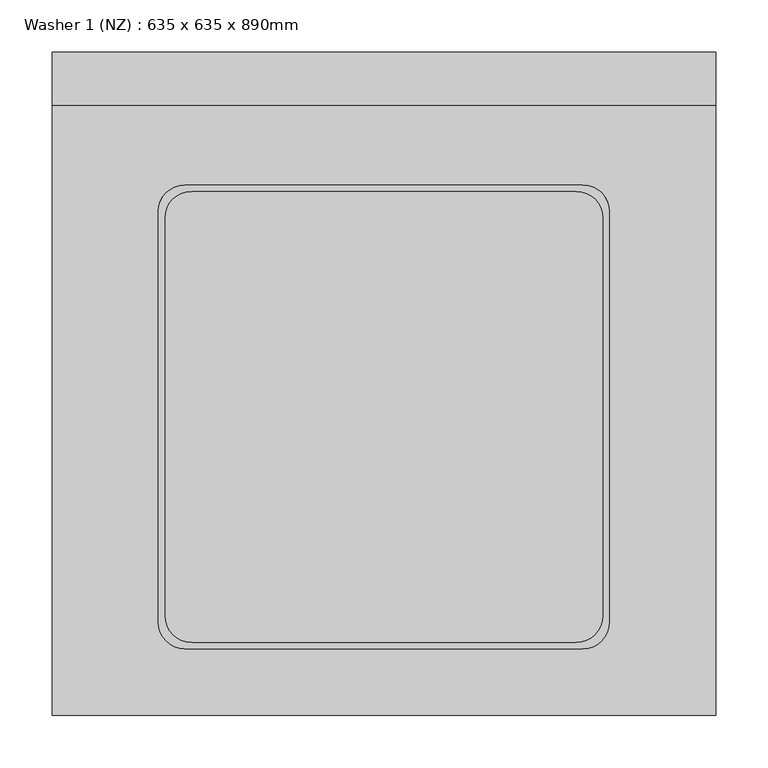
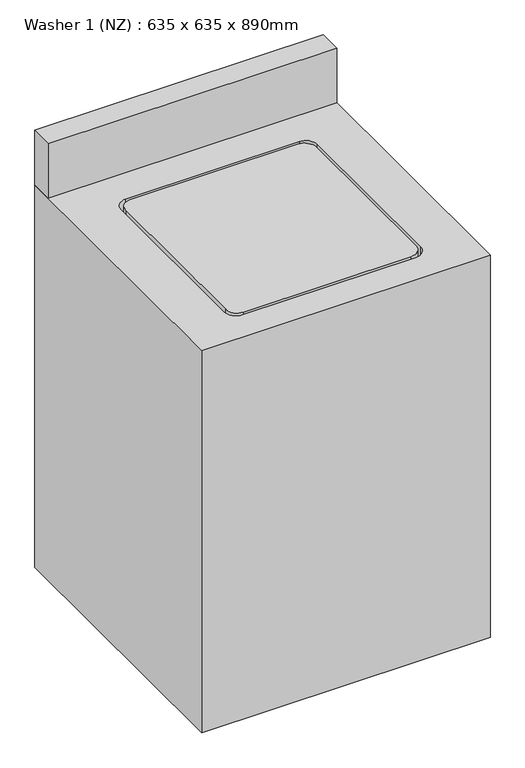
"""IFC4 building model written with IfcOpenShell, lengths in millimetres: proxy geometry, Washer 1 (NZ) : 635 x 635 x 890mm."""

from ifc_helpers import new_model, si_unit, point, frame, frame_2d, origin, place, context, project, spatial, polyline, circle_curve, trimmed, segment, composite_curve, outline, extrude, source, transform, mapped, element, save
from ifc_brep_helpers import plane_surface, revolved_surface, advanced_brep


def washer_1_nz_635_x_635_x_890mm_ea8aa6a1(model_context):
    return source(origin(), model_context, "Body", "SolidModel", [
        extrude(outline(composite_curve([segment(trimmed(circle_curve(frame_2d((210.8674685, 437.8995648)), 25.4), [point((185.4674685, 437.8995648))], [point((210.8674685, 463.2995648))], False, "CARTESIAN"), True, "CONTINUOUS"), segment(polyline([(210.8674685, 463.2995648), (579.1674685, 463.2995648)]), True, "CONTINUOUS"), segment(trimmed(circle_curve(frame_2d((579.1674685, 437.8995648)), 25.4), [point((579.1674685, 463.2995648))], [point((604.5674685, 437.8995648))], False, "CARTESIAN"), True, "CONTINUOUS"), segment(polyline([(604.5674685, 437.8995648), (604.5674685, 56.8995648)]), True, "CONTINUOUS"), segment(trimmed(circle_curve(frame_2d((579.1674685, 56.8995648)), 25.4), [point((604.5674685, 56.8995648))], [point((579.1674685, 31.4995648))], False, "CARTESIAN"), True, "CONTINUOUS"), segment(polyline([(579.1674685, 31.4995648), (210.8674685, 31.4995648)]), True, "CONTINUOUS"), segment(trimmed(circle_curve(frame_2d((210.8674685, 56.8995648)), 25.4), [point((210.8674685, 31.4995648))], [point((185.4674685, 56.8995648))], False, "CARTESIAN"), True, "CONTINUOUS"), segment(polyline([(185.4674685, 56.8995648), (185.4674685, 437.8995648)]), True, "CONTINUOUS")], self_intersect=False)), frame((0.0, 0.0, 864.6), z_axis=(0.0, 0.0, 1.0), x_axis=(1.0, 0.0, 0.0)), (0.0, 0.0, 1.0), 25.4),
        extrude(outline(polyline([(77.5174685, 545.8495648), (77.5174685, 596.6495648), (712.5174685, 596.6495648), (712.5174685, 545.8495648), (77.5174685, 545.8495648)])), frame((0.0, 0.0, 890.0), z_axis=(0.0, 0.0, 1.0), x_axis=(1.0, 0.0, 0.0)), (0.0, 0.0, 1.0), 127.0),
        advanced_brep(
        [(77.5174685, 596.6495648, 890.0), (77.5174685, -38.3504352, 890.0), (712.5174685, -38.3504352, 890.0), (712.5174685, 596.6495648, 890.0), (204.5174685, 469.4681955, 890.0), (585.5174685, 469.4681955, 890.0), (610.9174685, 444.0681955, 890.0), (610.9174685, 50.5495648, 890.0), (585.5174685, 25.1495648, 890.0), (204.5174685, 25.1495648, 890.0), (179.1174685, 50.5495648, 890.0), (179.1174685, 444.0681955, 890.0), (77.5174685, 596.6495648, 0.0), (712.5174685, 596.6495648, 0.0), (712.5174685, -38.3504352, 0.0), (77.5174685, -38.3504352, 0.0), (585.5174685, 469.4681955, 839.2), (204.5174685, 469.4681955, 839.2), (179.1174685, 444.0681955, 839.2), (179.1174685, 50.5495648, 839.2), (204.5174685, 25.1495648, 839.2), (585.5174685, 25.1495648, 839.2), (610.9174685, 50.5495648, 839.2), (610.9174685, 444.0681955, 839.2)],
        [
            (0, 1),
            (1, 2),
            (2, 3),
            (3, 0),
            (4, 5),
            (5, 6, circle_curve(frame((585.5174685, 444.0681955, 890.0), z_axis=(0.0, 0.0, -1.0), x_axis=(0.0, -1.0, 0.0)), 25.4)),
            (6, 7),
            (7, 8, circle_curve(frame((585.5174685, 50.5495648, 890.0), z_axis=(0.0, 0.0, -1.0), x_axis=(0.0, -1.0, 0.0)), 25.4)),
            (8, 9),
            (9, 10, circle_curve(frame((204.5174685, 50.5495648, 890.0), z_axis=(0.0, 0.0, -1.0), x_axis=(0.0, -1.0, 0.0)), 25.4)),
            (10, 11),
            (11, 4, circle_curve(frame((204.5174685, 444.0681955, 890.0), z_axis=(0.0, 0.0, -1.0), x_axis=(0.0, -1.0, 0.0)), 25.4)),
            (12, 13),
            (13, 14),
            (14, 15),
            (15, 12),
            (0, 12),
            (15, 1),
            (14, 2),
            (13, 3),
            (16, 17),
            (17, 18, circle_curve(frame((204.5174685, 444.0681955, 839.2), z_axis=(0.0, 0.0, 1.0), x_axis=(0.0, -1.0, 0.0)), 25.4)),
            (18, 19),
            (19, 20, circle_curve(frame((204.5174685, 50.5495648, 839.2), z_axis=(0.0, 0.0, 1.0), x_axis=(0.0, -1.0, 0.0)), 25.4)),
            (20, 21),
            (21, 22, circle_curve(frame((585.5174685, 50.5495648, 839.2), z_axis=(0.0, 0.0, 1.0), x_axis=(0.0, -1.0, 0.0)), 25.4)),
            (22, 23),
            (23, 16, circle_curve(frame((585.5174685, 444.0681955, 839.2), z_axis=(0.0, 0.0, 1.0), x_axis=(0.0, -1.0, 0.0)), 25.4)),
            (16, 5),
            (4, 17),
            (11, 18),
            (10, 19),
            (9, 20),
            (8, 21),
            (7, 22),
            (6, 23),
        ],
        [
            plane_surface(frame((77.5174685, -38.3504352, 890.0), z_axis=(0.0, 0.0, 1.0), x_axis=(0.0, -1.0, 0.0))),
            plane_surface(frame((77.5174685, -38.3504352, 0.0), z_axis=(0.0, 0.0, -1.0), x_axis=(0.0, 1.0, 0.0))),
            plane_surface(frame((77.5174685, 596.6495648, 890.0), z_axis=(-1.0, 0.0, 0.0), x_axis=(0.0, 0.0, -1.0))),
            plane_surface(frame((77.5174685, -38.3504352, 890.0), z_axis=(0.0, -1.0, 0.0), x_axis=(0.0, 0.0, -1.0))),
            plane_surface(frame((712.5174685, -38.3504352, 890.0), z_axis=(1.0, 0.0, 0.0), x_axis=(0.0, 0.0, -1.0))),
            plane_surface(frame((712.5174685, 596.6495648, 890.0), z_axis=(0.0, 1.0, 0.0), x_axis=(0.0, 0.0, -1.0))),
            plane_surface(frame((204.5174685, 469.4681955, 839.2), z_axis=(0.0, 0.0, 1.0), x_axis=(1.0, 0.0, 0.0))),
            plane_surface(frame((585.5174685, 469.4681955, 890.0), z_axis=(0.0, -1.0, 0.0), x_axis=(0.0, 0.0, -1.0))),
            revolved_surface(polyline([(204.5174685, 418.6681955, 890.0), (204.5174685, 418.6681955, 839.2)]), (204.5174685, 444.0681955, 839.2), (0.0, 0.0, 1.0)),
            plane_surface(frame((179.1174685, 444.0681955, 890.0), z_axis=(1.0, 0.0, 0.0), x_axis=(0.0, 0.0, -1.0))),
            revolved_surface(polyline([(204.5174685, 25.1495648, 890.0), (204.5174685, 25.1495648, 839.2)]), (204.5174685, 50.5495648, 839.2), (0.0, 0.0, 1.0)),
            plane_surface(frame((204.5174685, 25.1495648, 890.0), z_axis=(0.0, 1.0, 0.0), x_axis=(0.0, 0.0, -1.0))),
            revolved_surface(polyline([(585.5174685, 25.1495648, 890.0), (585.5174685, 25.1495648, 839.2)]), (585.5174685, 50.5495648, 839.2), (0.0, 0.0, 1.0)),
            plane_surface(frame((610.9174685, 50.5495648, 890.0), z_axis=(-1.0, 0.0, 0.0), x_axis=(0.0, 0.0, -1.0))),
            revolved_surface(polyline([(585.5174685, 418.6681955, 890.0), (585.5174685, 418.6681955, 839.2)]), (585.5174685, 444.0681955, 839.2), (0.0, 0.0, 1.0)),
        ],
        [
            (0, [[1, 2, 3, 4], [5, 6, 7, 8, 9, 10, 11, 12]]),
            (1, [[13, 14, 15, 16]]),
            (2, [[-1, 17, -16, 18]]),
            (3, [[-2, -18, -15, 19]]),
            (4, [[-3, -19, -14, 20]]),
            (5, [[-4, -20, -13, -17]]),
            (6, [[21, 22, 23, 24, 25, 26, 27, 28]]),
            (7, [[-21, 29, -5, 30]]),
            (8, [[-22, -30, -12, 31]]),
            (9, [[-23, -31, -11, 32]]),
            (10, [[-24, -32, -10, 33]]),
            (11, [[-25, -33, -9, 34]]),
            (12, [[-26, -34, -8, 35]]),
            (13, [[-27, -35, -7, 36]]),
            (14, [[-28, -36, -6, -29]]),
        ],
    ),
    ])


if __name__ == "__main__":
    model = new_model("IFC4")
    model_context = context("Model", 3, world=origin())
    ifc_project = project(units=[si_unit("LENGTHUNIT", "METRE", prefix="MILLI")], contexts=[model_context])
    site = spatial("IfcSite", under=ifc_project)
    building = spatial("IfcBuilding", under=site)
    placement = place(None, origin())
    washer_1_nz_635_x_635_x_890mm_shape = washer_1_nz_635_x_635_x_890mm_ea8aa6a1(model_context)
    element("IfcBuildingElementProxy", 1, Name="Washer 1 (NZ) : 635 x 635 x 890mm", ObjectType="Washer 1 (NZ) : 635 x 635 x 890mm", at=placement, inside=building, context=model_context, shape_type="MappedRepresentation", body=[
        mapped(washer_1_nz_635_x_635_x_890mm_shape, transform((0.0, 0.0, 0.0), x_axis=(1.0, 0.0, 0.0), y_axis=(0.0, 1.0, 0.0), z_axis=(0.0, 0.0, 1.0))),
    ])
    save(model, "model.ifc")
